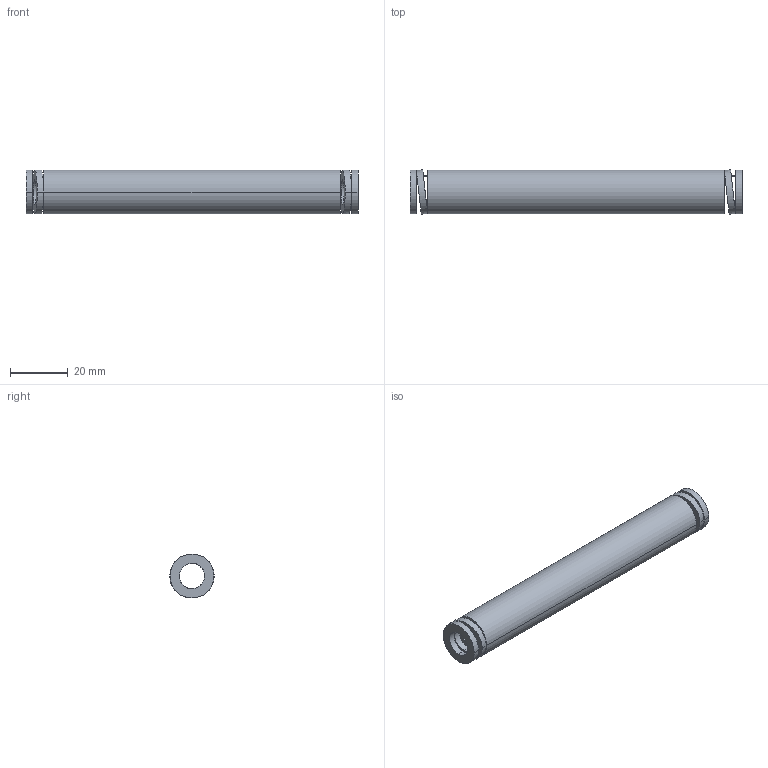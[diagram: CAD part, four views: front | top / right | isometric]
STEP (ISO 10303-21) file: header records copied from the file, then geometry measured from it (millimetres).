
FILE_DESCRIPTION(('CATIA V5 STEP Exchange'),'2;1');
FILE_NAME('C:\Users\Utente\Desktop\IO LAVORO\3D X SITO CF\X SITO\3D files 392B\392-B16-115.stp','2021-08-12T14:02:54+00:00',('none'),('none'),'CATIA Version 5 Release 20 GA (IN-10)','CATIA V5 STEP AP203','none');
FILE_SCHEMA(('CONFIG_CONTROL_DESIGN'));
Length unit declared in the file: millimetre
Products named in the file (1): 392-B16-115
Bounding box: 115 x 15.35 x 15.2 mm (x, y, z)
Volume: 13449.5 mm3; surface area: 9614.5 mm2
Topology: 1 solids, 1 shells, 38 faces, 92 edges, 64 vertices
Faces by surface type: cylinder 28, plane 10
Entity records: 1584 total; most frequent: CARTESIAN_POINT 695, ORIENTED_EDGE 184, DIRECTION 129, EDGE_CURVE 92, AXIS2_PLACEMENT_3D 64, VERTEX_POINT 64, EDGE_LOOP 56, B_SPLINE_CURVE_WITH_KNOTS 39
